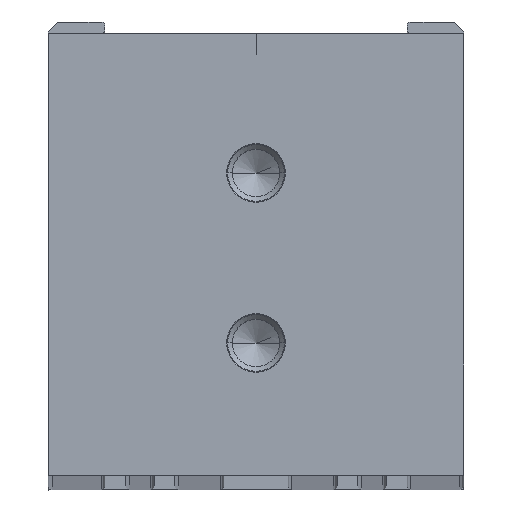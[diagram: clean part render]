
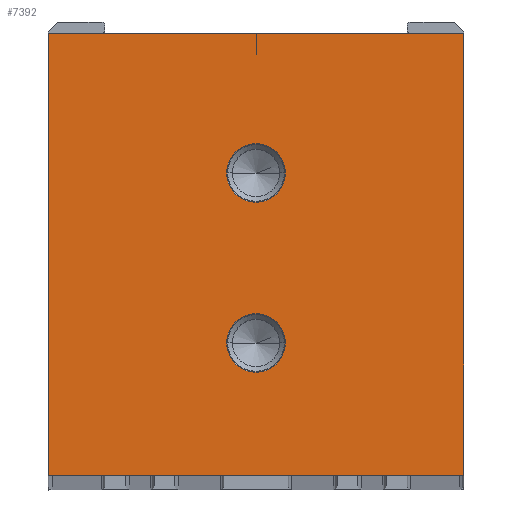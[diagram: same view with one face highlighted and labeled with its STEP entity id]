
A CAD part, top view. The second image highlights one B-rep face of the part: STEP entity #7392.
In plain terms, the highlighted planar face has unit normal (0, 0, 1).
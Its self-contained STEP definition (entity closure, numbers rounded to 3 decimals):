
#2542=DIRECTION('',(-1.,0.,0.));
#2543=VECTOR('',#2542,22.);
#2544=CARTESIAN_POINT('',(11.,11.402,219.5));
#2545=LINE('',#2544,#2543);
#2546=DIRECTION('',(0.,1.,0.));
#2547=VECTOR('',#2546,23.402);
#2548=CARTESIAN_POINT('',(11.,-11.999,219.5));
#2549=LINE('',#2548,#2547);
#2550=DIRECTION('',(1.,0.,0.));
#2551=VECTOR('',#2550,22.);
#2552=CARTESIAN_POINT('',(-11.,-12.007,219.5));
#2553=LINE('',#2552,#2551);
#2554=DIRECTION('',(0.,-1.,0.));
#2555=VECTOR('',#2554,23.409);
#2556=CARTESIAN_POINT('',(-11.,11.402,219.5));
#2557=LINE('',#2556,#2555);
#2558=CARTESIAN_POINT('',(0.,-4.996,
219.5));
#2559=DIRECTION('',(0.,0.,-1.));
#2560=DIRECTION('',(-1.,0.,0.));
#2561=AXIS2_PLACEMENT_3D('',#2558,#2559,#2560);
#2563=CARTESIAN_POINT('',(0.,-4.996,
219.5));
#2564=DIRECTION('',(0.,0.,-1.));
#2565=DIRECTION('',(1.,0.,0.));
#2566=AXIS2_PLACEMENT_3D('',#2563,#2564,#2565);
#2568=CARTESIAN_POINT('',(0.,4.004,
219.5));
#2569=DIRECTION('',(0.,0.,-1.));
#2570=DIRECTION('',(-1.,0.,0.));
#2571=AXIS2_PLACEMENT_3D('',#2568,#2569,#2570);
#2573=CARTESIAN_POINT('',(0.,4.004,219.5));
#2574=DIRECTION('',(0.,0.,-1.));
#2575=DIRECTION('',(1.,0.,0.));
#2576=AXIS2_PLACEMENT_3D('',#2573,#2574,#2575);
#2902=CARTESIAN_POINT('',(-11.,11.402,219.5));
#2903=CARTESIAN_POINT('',(-11.,-12.007,219.5));
#2904=VERTEX_POINT('',#2902);
#2905=VERTEX_POINT('',#2903);
#2906=CARTESIAN_POINT('',(11.,-11.999,219.5));
#2907=VERTEX_POINT('',#2906);
#2908=CARTESIAN_POINT('',(11.,11.402,219.5));
#2909=VERTEX_POINT('',#2908);
#3726=CARTESIAN_POINT('',(-1.55,-4.996,
219.5));
#3727=CARTESIAN_POINT('',(1.55,-4.996,219.5));
#3728=VERTEX_POINT('',#3726);
#3729=VERTEX_POINT('',#3727);
#3734=CARTESIAN_POINT('',(-1.55,4.004,219.5));
#3735=CARTESIAN_POINT('',(1.55,4.004,219.5));
#3736=VERTEX_POINT('',#3734);
#3737=VERTEX_POINT('',#3735);
#7369=CARTESIAN_POINT('',(0.,0.,219.5));
#7370=DIRECTION('',(0.,0.,1.));
#7371=DIRECTION('',(1.,0.,0.));
#7372=AXIS2_PLACEMENT_3D('',#7369,#7370,#7371);
#7373=PLANE('',#7372);
#7374=ORIENTED_EDGE('',*,*,#3807,.F.);
#7375=ORIENTED_EDGE('',*,*,#3902,.F.);
#7376=ORIENTED_EDGE('',*,*,#4799,.F.);
#7377=ORIENTED_EDGE('',*,*,#4055,.F.);
#7378=EDGE_LOOP('',(#7374,#7375,#7376,#7377));
#7379=FACE_OUTER_BOUND('',#7378,.F.);
#7381=ORIENTED_EDGE('',*,*,#7380,.F.);
#7383=ORIENTED_EDGE('',*,*,#7382,.F.);
#7384=EDGE_LOOP('',(#7381,#7383));
#7385=FACE_BOUND('',#7384,.F.);
#7387=ORIENTED_EDGE('',*,*,#7386,.F.);
#7389=ORIENTED_EDGE('',*,*,#7388,.F.);
#7390=EDGE_LOOP('',(#7387,#7389));
#7391=FACE_BOUND('',#7390,.F.);
#2562=CIRCLE('',#2561,1.55);
#2567=CIRCLE('',#2566,1.55);
#2572=CIRCLE('',#2571,1.55);
#2577=CIRCLE('',#2576,1.55);
#3807=EDGE_CURVE('',#2909,#2904,#2545,.T.);
#3902=EDGE_CURVE('',#2907,#2909,#2549,.T.);
#4055=EDGE_CURVE('',#2904,#2905,#2557,.T.);
#4799=EDGE_CURVE('',#2905,#2907,#2553,.T.);
#7380=EDGE_CURVE('',#3728,#3729,#2562,.T.);
#7382=EDGE_CURVE('',#3729,#3728,#2567,.T.);
#7386=EDGE_CURVE('',#3736,#3737,#2572,.T.);
#7388=EDGE_CURVE('',#3737,#3736,#2577,.T.);
#7392=ADVANCED_FACE('',(#7379,#7385,#7391),#7373,.T.);
